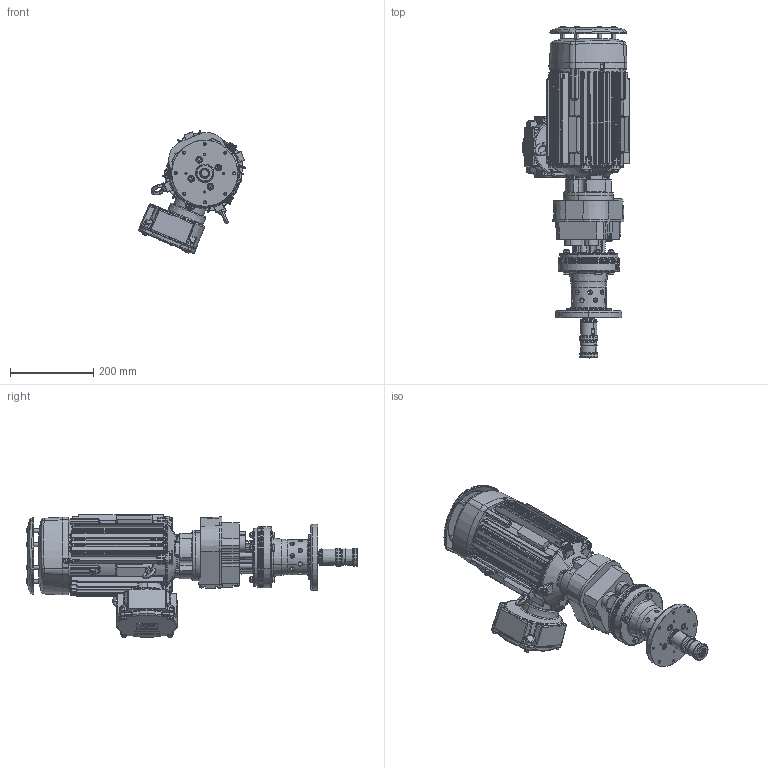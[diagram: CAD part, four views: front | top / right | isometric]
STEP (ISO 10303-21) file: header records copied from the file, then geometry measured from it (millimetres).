
FILE_DESCRIPTION (( 'STEP AP214' ), '1' );
FILE_NAME ('Elektr. Rührwerksantrieb ATEX 59Nm 1,5kW mit Schnellwechselsystem V3_6627+5617.STEP', '2024-04-16T09:58:12', ( '' ), ( '' ), 'SwSTEP 2.0', 'SolidWorks 2022', '' );
FILE_SCHEMA (( 'AUTOMOTIVE_DESIGN' ));
Length unit declared in the file: millimetre
Products named in the file (1): Elektr. Rührwerksantrieb ATEX 59Nm 1,5kW mit Schnellwechselsystem V3_6627+5617
Bounding box: 256.58 x 795.7 x 294.24 mm (x, y, z)
Surface area: 770294.5 mm2 (no closed solid volume)
Topology: 0 solids, 115 shells, 2472 faces, 8203 edges, 5544 vertices
Faces by surface type: cylinder 786, plane 651, bspline 470, cone 264, torus 243, sphere 58
Entity records: 152858 total; most frequent: CARTESIAN_POINT 60068, ORIENTED_EDGE 13031, DIRECTION 12884, EDGE_CURVE 8125, VERTEX_POINT 5520, AXIS2_PLACEMENT_3D 4885, LINE 3114, VECTOR 3114
